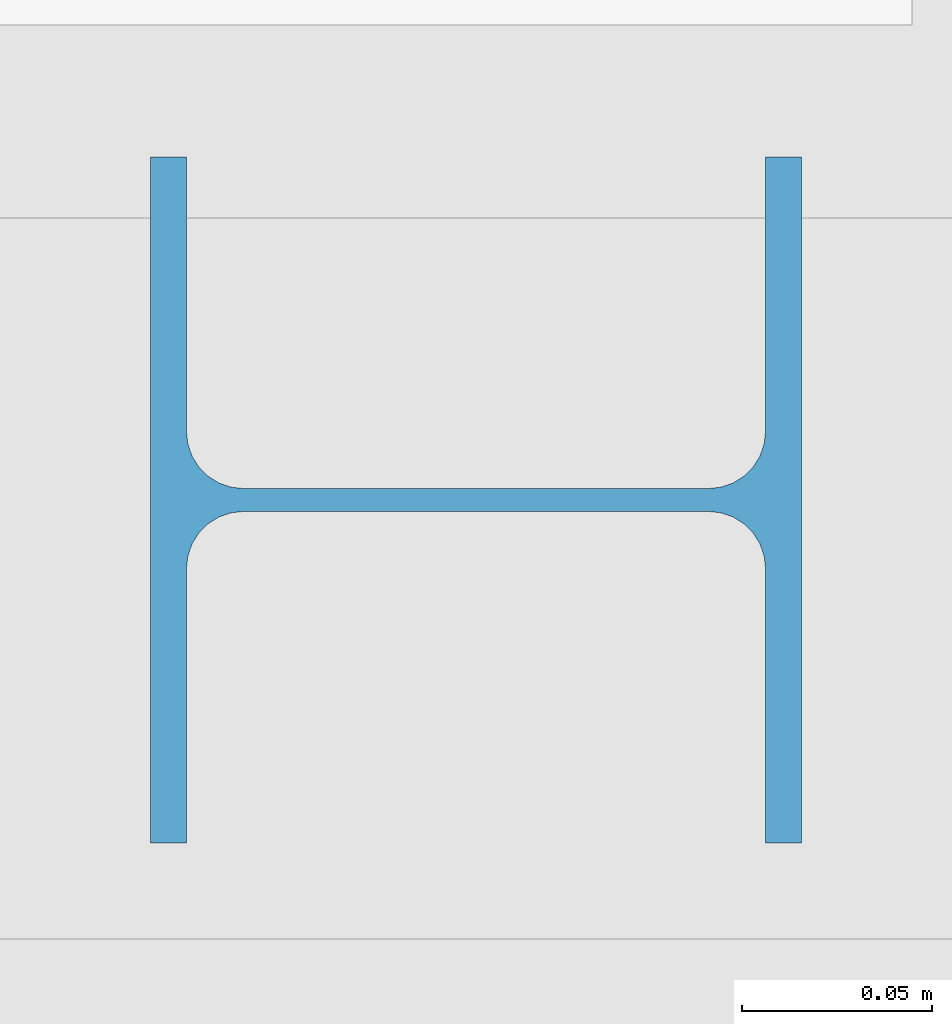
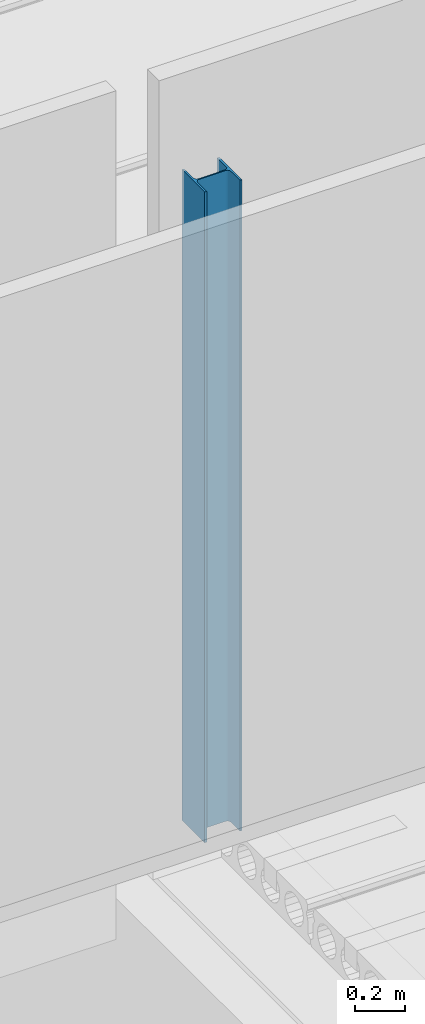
# One storey, part 2 of 230: 1 column.
"""IFC4X3_ADD2 building model written with IfcOpenShell, lengths in millimetres."""

from ifc_helpers import new_model, si_unit, point, direction, frame, frame_2d, origin_with_axes, place, context, subcontext, project, spatial, polyline, circle_curve, trimmed, segment, composite_curve, outline, extrude, source, transform, mapped, material, type_object, type_shapes, element, save


model = new_model("IFC4X3_ADD2")

# Units and contexts
model_context = context("Model", 3, precision=1e-05, world=origin_with_axes(), true_north=direction((0.0, 1.0)))
body_context = subcontext(model_context, "Body", "Model", "MODEL_VIEW")
ifc_project = project(units=[si_unit("LENGTHUNIT", "METRE", prefix="MILLI"), si_unit("AREAUNIT", "SQUARE_METRE"), si_unit("VOLUMEUNIT", "CUBIC_METRE"), si_unit("PLANEANGLEUNIT", "RADIAN"), si_unit("TIMEUNIT", "SECOND"), si_unit("MASSUNIT", "GRAM")], contexts=[model_context])

# Site, building, storey
site_placement = place(None, origin_with_axes())
site = spatial("IfcSite", under=ifc_project, at=site_placement, Name="Site", CompositionType="ELEMENT")
building_placement = place(site_placement, origin_with_axes())
building = spatial("IfcBuilding", under=site, at=building_placement, Name="IFC Building Story")
storey_placement = place(building_placement, origin_with_axes())
storey = spatial("IfcBuildingStorey", under=building, at=storey_placement, Name="ETAGE 00 (0)", Elevation=0.0)

# Column
ifc_material = material(Name="BS_28_Métal")
column_type = type_object("IfcColumnType", Name="BS_28_SCO_LE_Poteau HE-A_HEA180", PredefinedType="NOTDEFINED")
shared_shape = source(origin_with_axes(), body_context, "Body", "SweptSolid", [
    extrude(outline(composite_curve([segment(polyline([(85.5, -90.00000000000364), (76.0, -90.00000000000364)]), True, "CONTINUOUS"), segment(polyline([(76.0, -90.00000000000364), (76.0, -18.00000000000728)]), True, "CONTINUOUS"), segment(trimmed(circle_curve(frame_2d((60.99999999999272, -18.00000000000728), x_axis=(1.0, 0.0)), 15.00000000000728), [point((76.0, -18.00000000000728))], [point((60.99999999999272, -3.000000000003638))], True, "CARTESIAN"), True, "CONTINUOUS"), segment(polyline([(60.99999999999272, -3.000000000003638), (-60.99999999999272, -3.000000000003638)]), True, "CONTINUOUS"), segment(trimmed(circle_curve(frame_2d((-60.99999999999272, -18.00000000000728), x_axis=(1.0, 0.0)), 15.00000000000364), [point((-60.99999999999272, -3.000000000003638))], [point((-75.99999999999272, -18.00000000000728))], True, "CARTESIAN"), True, "CONTINUOUS"), segment(polyline([(-75.99999999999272, -18.00000000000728), (-75.99999999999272, -90.00000000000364)]), True, "CONTINUOUS"), segment(polyline([(-75.99999999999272, -90.00000000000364), (-85.49999999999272, -90.00000000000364)]), True, "CONTINUOUS"), segment(polyline([(-85.49999999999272, -90.00000000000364), (-85.49999999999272, 89.99999999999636)]), True, "CONTINUOUS"), segment(polyline([(-85.49999999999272, 89.99999999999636), (-75.99999999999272, 89.99999999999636)]), True, "CONTINUOUS"), segment(polyline([(-75.99999999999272, 89.99999999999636), (-75.99999999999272, 17.99999999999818)]), True, "CONTINUOUS"), segment(trimmed(circle_curve(frame_2d((-60.99999999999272, 17.99999999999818), x_axis=(1.0, 0.0)), 15.0), [point((-75.99999999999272, 17.99999999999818))], [point((-60.99999999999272, 2.999999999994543))], True, "CARTESIAN"), True, "CONTINUOUS"), segment(polyline([(-60.99999999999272, 2.999999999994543), (60.99999999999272, 2.999999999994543)]), True, "CONTINUOUS"), segment(trimmed(circle_curve(frame_2d((60.99999999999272, 17.99999999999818), x_axis=(1.0, 0.0)), 15.00000000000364), [point((60.99999999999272, 2.999999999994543))], [point((76.0, 17.99999999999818))], True, "CARTESIAN"), True, "CONTINUOUS"), segment(polyline([(76.0, 17.99999999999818), (76.0, 89.99999999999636)]), True, "CONTINUOUS"), segment(polyline([(76.0, 89.99999999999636), (85.5, 89.99999999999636)]), True, "CONTINUOUS"), segment(polyline([(85.5, 89.99999999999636), (85.5, -90.00000000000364)]), True, "CONTINUOUS")], self_intersect=False)), frame((33401.6894781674, 16334.5000000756, 4270.0), z_axis=(0.0, 0.0, 1.0), x_axis=(1.0, 0.0, 0.0)), (0.0, 0.0, 1.0), 3160.0),
])
type_shapes(column_type, [shared_shape])
column_placement = place(storey_placement, origin_with_axes())
element("IfcColumn", 1, at=column_placement, inside=storey, type_object=column_type, material=ifc_material, Name="BS_28_SCO_LE_Poteau HE-A:HEA180", ObjectType="HEA180", context=body_context, shape_type="MappedRepresentation", body=[
    mapped(shared_shape, transform((0.0, 0.0, 0.0))),
])

save(model, "model.ifc")
